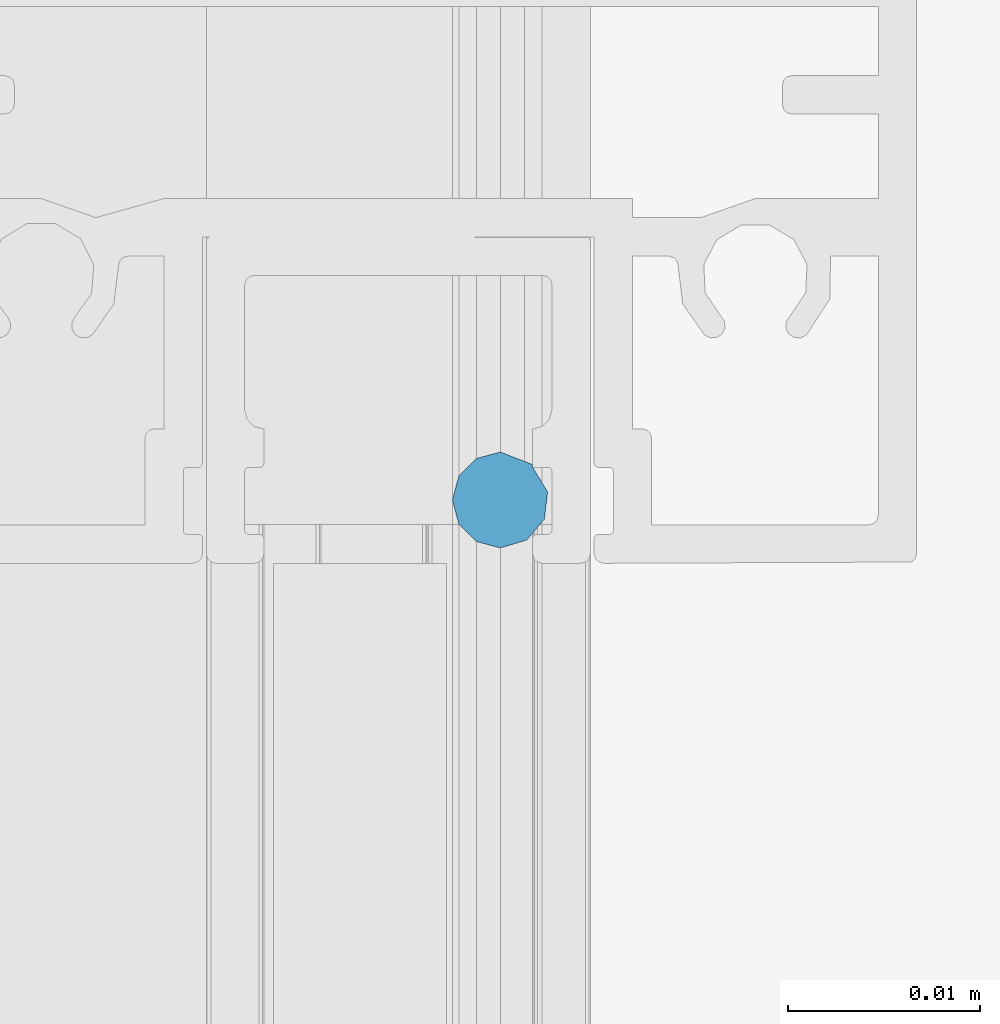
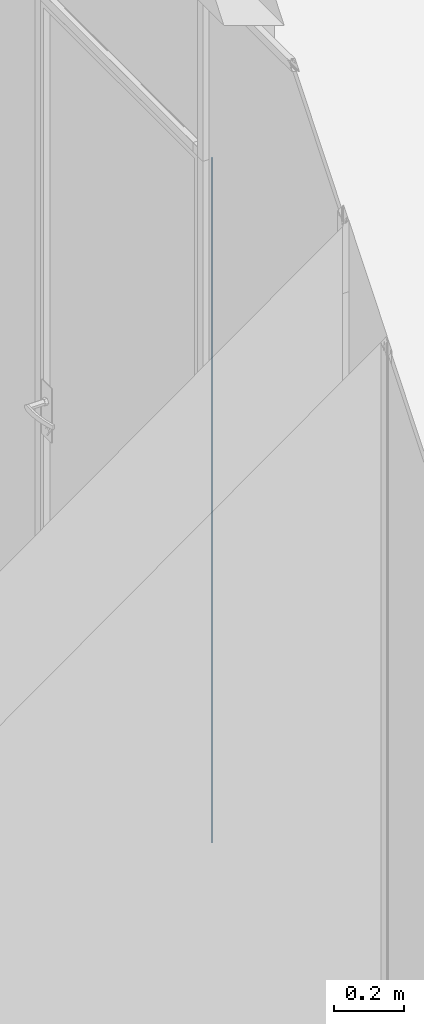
# One storey, part 59 of 387: 1 building element part, 2 elements without a shape of their own.
"""IFC2X3 building model written with IfcOpenShell, lengths in millimetres."""

import ifcopenshell
import ifcopenshell.guid

model = None  # the IFC model being written
_history = None  # IfcOwnerHistory: only IFC2X3 demands one
_inside = {}  # id of a spatial element -> (the spatial element, [elements in it])
_under = {}  # id of a project, library or spatial element -> (it, [spatial elements below it])
_declared = {}  # id of a project -> (the project, [libraries it declares])
_typed = {}  # id of a type object -> (the type object, [elements of that type])
_made_of = {}  # id of a material, layer set ... -> (it, [elements and type objects made of it])


def new_model(schema):
    """Start an empty IFC model of exactly this schema.

    Asked for "IFC4X3", IfcOpenShell would pick the latest addendum, in which some entities
    have other attributes; the version numbers below select the first issue.
    IFC2X3 requires an IfcOwnerHistory on every rooted entity: one is made here for all.
    """
    global model, _history
    if schema == "IFC4X3":
        model = ifcopenshell.file(schema_version=(4, 3, 0, 0))
    else:
        model = ifcopenshell.file(schema=schema)
    _inside.clear()
    _under.clear()
    _declared.clear()
    _typed.clear()
    _made_of.clear()
    _history = None
    if model.schema == "IFC2X3":
        org = make("IfcOrganization", Name="unknown")
        user = make(
            "IfcPersonAndOrganization",
            ThePerson=make("IfcPerson", FamilyName="unknown"),
            TheOrganization=org,
        )
        app = make(
            "IfcApplication",
            ApplicationDeveloper=org,
            Version="unknown",
            ApplicationFullName="unknown",
            ApplicationIdentifier="unknown",
        )
        _history = make(
            "IfcOwnerHistory",
            OwningUser=user,
            OwningApplication=app,
            ChangeAction="ADDED",
            CreationDate=0,
        )
    return model


def make(cls, **values):
    """One entity of the class cls with the attributes given. An attribute that is None is left unset."""
    return model.create_entity(
        cls, **{name: value for name, value in values.items() if value is not None}
    )


def entity(cls, *values):
    """Any entity or typed value of the class cls, its attributes in the order of the schema. None: left unset."""
    e = model.create_entity(cls)
    for i, value in enumerate(values):
        if value is not None:
            e[i] = value
    return e


def rooted(cls, **values):
    """An entity with a GlobalId (a new one), such as an element, a storey or a relation."""
    return make(cls, GlobalId=ifcopenshell.guid.new(), OwnerHistory=_history, **values)


def si_unit(unit_type, name, prefix=None):
    """IfcSIUnit, for example si_unit("LENGTHUNIT", "METRE", prefix="MILLI")."""
    return make("IfcSIUnit", UnitType=unit_type, Prefix=prefix, Name=name)


def converted_unit(unit_type, name, factor, base, dimensions=None, offset=None):
    """IfcConversionBasedUnit, such as the inch: factor (a typed value) times the base unit."""
    return make(
        "IfcConversionBasedUnit"
        if offset is None
        else "IfcConversionBasedUnitWithOffset",
        ConversionOffset=offset,
        Dimensions=None
        if dimensions is None
        else entity("IfcDimensionalExponents", *dimensions),
        UnitType=unit_type,
        Name=name,
        ConversionFactor=make(
            "IfcMeasureWithUnit", ValueComponent=factor, UnitComponent=base
        ),
    )


def derived_unit(unit_type, elements):
    """IfcDerivedUnit: a product of units, each with its exponent."""
    return make(
        "IfcDerivedUnit",
        Elements=[
            make("IfcDerivedUnitElement", Unit=unit, Exponent=power)
            for unit, power in elements
        ],
        UnitType=unit_type,
    )


def money_unit(currency):
    """IfcMonetaryUnit."""
    return make("IfcMonetaryUnit", Currency=currency)


def assignment(units):
    """IfcUnitAssignment: the units of a project."""
    return None if units is None else make("IfcUnitAssignment", Units=units)


def point(xyz):
    """IfcCartesianPoint."""
    return None if xyz is None else make("IfcCartesianPoint", Coordinates=xyz)


def direction(xyz):
    """IfcDirection."""
    return None if xyz is None else make("IfcDirection", DirectionRatios=xyz)


def frame(location, z_axis=None, x_axis=None):
    """IfcAxis2Placement3D, a coordinate frame: its origin and axes. An axis left out is left unset."""
    return make(
        "IfcAxis2Placement3D",
        Location=point(location),
        Axis=direction(z_axis),
        RefDirection=direction(x_axis),
    )


def origin_with_axes():
    """The frame at (0, 0, 0) with the z axis (0, 0, 1) and the x axis (1, 0, 0) written out."""
    return frame((0.0, 0.0, 0.0), z_axis=(0.0, 0.0, 1.0), x_axis=(1.0, 0.0, 0.0))


def place(relative_to, where):
    """IfcLocalPlacement: puts the frame where relative to a parent placement (None: the world)."""
    return make(
        "IfcLocalPlacement", PlacementRelTo=relative_to, RelativePlacement=where
    )


def context(
    kind, dimensions, precision=None, world=None, true_north=None, identifier=None
):
    """IfcGeometricRepresentationContext, for example the 3D "Model" context."""
    return make(
        "IfcGeometricRepresentationContext",
        ContextIdentifier=identifier,
        ContextType=kind,
        CoordinateSpaceDimension=dimensions,
        Precision=precision,
        WorldCoordinateSystem=world,
        TrueNorth=true_north,
    )


def subcontext(parent, identifier, kind, view, scale=None):
    """IfcGeometricRepresentationSubContext, for example "Body" below "Model"."""
    return make(
        "IfcGeometricRepresentationSubContext",
        ContextIdentifier=identifier,
        ContextType=kind,
        ParentContext=parent,
        TargetScale=scale,
        TargetView=view,
    )


def project(units=None, contexts=None):
    """IfcProject with its units and contexts."""
    return rooted(
        "IfcProject",
        Name="project",
        RepresentationContexts=contexts,
        UnitsInContext=assignment(units),
    )


def spatial(cls, under=None, at=None, **own):
    """A site, building, storey or space (cls), placed at a placement, below another one or the project."""
    s = rooted(cls, ObjectPlacement=at, **own)
    if under is not None:
        _under.setdefault(under.id(), (under, []))[1].append(s)
    return s


def faces_of(points, faces, orient=None, outer=None):
    """IfcFace entities. A face is a list of loops; a loop is a list of indices into points, from 0.

    orient and outer hold one flag for each loop. By default every Orientation is true, the
    first loop of a face is its IfcFaceOuterBound and the others are IfcFaceBound.
    """
    made = []
    for i, loops in enumerate(faces):
        bounds = []
        for j, loop in enumerate(loops):
            is_outer = j == 0 if outer is None else outer[i][j]
            bounds.append(
                make(
                    "IfcFaceOuterBound" if is_outer else "IfcFaceBound",
                    Bound=make("IfcPolyLoop", Polygon=[points[k] for k in loop]),
                    Orientation=True if orient is None else orient[i][j],
                )
            )
        made.append(make("IfcFace", Bounds=bounds))
    return made


def faceted_brep(points, faces, orient=None, outer=None, voids=None):
    """IfcFacetedBrep: a solid bounded by flat faces; with voids (closed shells), ...WithVoids."""
    shared = [point(p) for p in points]
    hull = make("IfcClosedShell", CfsFaces=faces_of(shared, faces, orient, outer))
    if voids is None:
        return make("IfcFacetedBrep", Outer=hull)
    return make(
        "IfcFacetedBrepWithVoids",
        Outer=hull,
        Voids=[
            make(cls, CfsFaces=faces_of(shared, fs, o, b)) for cls, fs, o, b in voids
        ],
    )


def shape(context_of_items, identifier, shape_type, items):
    """IfcShapeRepresentation: the items that make up one representation, for example the "Body"."""
    return make(
        "IfcShapeRepresentation",
        ContextOfItems=context_of_items,
        RepresentationIdentifier=identifier,
        RepresentationType=shape_type,
        Items=items,
    )


def source(mapping_origin, context_of_items, identifier, shape_type, items):
    """IfcRepresentationMap: a shape defined once, which mapped items show again and again."""
    return make(
        "IfcRepresentationMap",
        MappingOrigin=mapping_origin,
        MappedRepresentation=shape(context_of_items, identifier, shape_type, items),
    )


def transform(
    local_origin,
    x_axis=None,
    y_axis=None,
    z_axis=None,
    scale=None,
    scale2=None,
    scale3=None,
    uniform=True,
):
    """IfcCartesianTransformationOperator3D, or its non-uniform kind. x_axis, y_axis, z_axis: its Axis1, 2, 3."""
    if uniform:
        return make(
            "IfcCartesianTransformationOperator3D",
            Axis1=direction(x_axis),
            Axis2=direction(y_axis),
            LocalOrigin=point(local_origin),
            Scale=scale,
            Axis3=direction(z_axis),
        )
    return make(
        "IfcCartesianTransformationOperator3DnonUniform",
        Axis1=direction(x_axis),
        Axis2=direction(y_axis),
        LocalOrigin=point(local_origin),
        Scale=scale,
        Axis3=direction(z_axis),
        Scale2=scale2,
        Scale3=scale3,
    )


def mapped(mapping_source, mapping_target):
    """IfcMappedItem: shows the shape of a source again, moved by a transform."""
    return make(
        "IfcMappedItem", MappingSource=mapping_source, MappingTarget=mapping_target
    )


def material(Name=None, Category=None):
    """IfcMaterial."""
    return make("IfcMaterial", Name=Name, Category=Category)


def made_of(thing, what):
    """Note that an element or type object is made of a material, layer set ...; save() writes the relation."""
    if what is not None:
        _made_of.setdefault(what.id(), (what, []))[1].append(thing)
    return thing


def type_object(cls, material=None, **own):
    """A type object (cls), such as IfcWallType, which elements share."""
    return made_of(rooted(cls, **own), material)


def element(
    cls,
    number,
    at=None,
    inside=None,
    cuts=None,
    type_object=None,
    material=None,
    context=None,
    identifier="Body",
    shape_type=None,
    held_by="IfcProductDefinitionShape",
    body=None,
    shapes=None,
    **own,
):
    """One element of the class cls, such as IfcWall. Its Tag is "e" and its number.

    at: its placement. inside: the storey or other place that contains it. cuts: it is an
    opening in that element (IfcRelVoidsElement). A single representation is given by context,
    identifier, shape_type and body (its items); several are given by shapes. held_by: the class
    of the entity that holds the representations. save() writes the other relations.
    """
    e = rooted(cls, Tag="e%d" % number, ObjectPlacement=at, **own)
    if body is not None:
        shapes = [shape(context, identifier, shape_type, body)]
    if shapes is not None:
        e.Representation = make(held_by, Representations=shapes)
    if inside is not None:
        _inside.setdefault(inside.id(), (inside, []))[1].append(e)
    if cuts is not None:
        rooted(
            "IfcRelVoidsElement", RelatingBuildingElement=cuts, RelatedOpeningElement=e
        )
    if type_object is not None:
        _typed.setdefault(type_object.id(), (type_object, []))[1].append(e)
    return made_of(e, material)


def aggregate(whole, parts):
    """IfcRelAggregates: a whole, such as a stair, and the parts it consists of."""
    return rooted("IfcRelAggregates", RelatingObject=whole, RelatedObjects=parts)


def save(model, path):
    """Write the relations noted so far, then the file.

    IfcRelAggregates (storeys below a building ...), IfcRelContainedInSpatialStructure (elements
    in a storey), IfcRelDefinesByType, IfcRelAssociatesMaterial and IfcRelDeclares: one each for
    every whole, place, type object, material and project.
    """
    for whole, parts in _under.values():
        aggregate(whole, parts)
    for where, things in _inside.values():
        rooted(
            "IfcRelContainedInSpatialStructure",
            RelatedElements=things,
            RelatingStructure=where,
        )
    for kind, things in _typed.values():
        rooted("IfcRelDefinesByType", RelatedObjects=things, RelatingType=kind)
    for what, things in _made_of.values():
        rooted("IfcRelAssociatesMaterial", RelatedObjects=things, RelatingMaterial=what)
    for by, libraries in _declared.values():
        rooted("IfcRelDeclares", RelatingContext=by, RelatedDefinitions=libraries)
    model.write(path)


model = new_model("IFC2X3")

# Units and contexts
model_context = context("Model", 3, precision=0.01, world=origin_with_axes(), true_north=direction((0.0, 1.0)))
body_context = subcontext(model_context, "Body", "Model", "MODEL_VIEW")
ifc_project = project(units=[si_unit("LENGTHUNIT", "METRE", prefix="MILLI"), si_unit("AREAUNIT", "SQUARE_METRE"), si_unit("VOLUMEUNIT", "CUBIC_METRE"), converted_unit("PLANEANGLEUNIT", "DEGREE", entity("IfcPlaneAngleMeasure", 0.0174532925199), si_unit("PLANEANGLEUNIT", "RADIAN"), dimensions=[0, 0, 0, 0, 0, 0, 0]), si_unit("SOLIDANGLEUNIT", "STERADIAN"), money_unit("EUR"), converted_unit("TIMEUNIT", "Year", entity("IfcTimeMeasure", 31556926.0), si_unit("TIMEUNIT", "SECOND"), dimensions=[0, 0, 1, 0, 0, 0, 0]), si_unit("MASSUNIT", "GRAM", prefix="KILO"), si_unit("THERMODYNAMICTEMPERATUREUNIT", "DEGREE_CELSIUS"), si_unit("LUMINOUSINTENSITYUNIT", "LUMEN"), si_unit("ENERGYUNIT", "JOULE", prefix="MEGA"), derived_unit("THERMALCONDUCTANCEUNIT", [(si_unit("POWERUNIT", "WATT"), 1), (si_unit("LENGTHUNIT", "METRE"), -1), (si_unit("THERMODYNAMICTEMPERATUREUNIT", "KELVIN"), -1)]), derived_unit("SPECIFICHEATCAPACITYUNIT", [(si_unit("ENERGYUNIT", "JOULE"), 1), (si_unit("MASSUNIT", "GRAM", prefix="KILO"), -1), (si_unit("THERMODYNAMICTEMPERATUREUNIT", "KELVIN"), -1)]), derived_unit("MASSDENSITYUNIT", [(si_unit("MASSUNIT", "GRAM", prefix="KILO"), 1), (si_unit("VOLUMEUNIT", "CUBIC_METRE"), -1)])], contexts=[model_context])

# Site, building, storey
site_placement = place(None, origin_with_axes())
site = spatial("IfcSite", under=ifc_project, at=site_placement, Name="Puškini 31, Narva", CompositionType="ELEMENT")
building_placement = place(site_placement, origin_with_axes())
building = spatial("IfcBuilding", under=site, at=building_placement, Name="Narva Riigigümnaasium", CompositionType="ELEMENT")
storey_placement = place(building_placement, frame((0.0, 0.0, 2640.0), z_axis=(0.0, 0.0, 1.0), x_axis=(1.0, 0.0, 0.0)))
storey = spatial("IfcBuildingStorey", under=building, at=storey_placement, Name="2.korrus +2.64", CompositionType="ELEMENT", Elevation=2640.0)

# Curtain wall, member, building element part
curtain_wall_type = type_object("IfcCurtainWallType", Name="Curtain Wall Type", PredefinedType="NOTDEFINED")
curtain_wall_placement = place(storey_placement, frame((28390.0000002, 176724.161139, -5.42380846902e-05), z_axis=(0.0, 0.0, 1.0), x_axis=(1.0, 0.0, 0.0)))
curtain_wall = element("IfcCurtainWall", 1, at=curtain_wall_placement, inside=storey, type_object=curtain_wall_type, Name="G-SKLF-12")
member_type = type_object("IfcMemberType", Name="32 x 27", PredefinedType="MULLION")
member_placement = place(curtain_wall_placement, frame((4.75708361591e-09, -308.189107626, 0.0), z_axis=(0.0, 0.0, 1.0), x_axis=(0.0, 1.0, 0.0)))
member = element("IfcMember", 2, at=member_placement, type_object=member_type, Name="G-SKLF-12-raam", ObjectType="MULLION")
aggregate(curtain_wall, [member])
ifc_material = material(Name="Soojustus - Mineraal Kõva")
shared_shape = source(origin_with_axes(), body_context, "Body", "Brep", [
    faceted_brep([(27.0, 6.99999999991, 0.0), (27.0, 6.99999999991, 2400.00001337), (28.2816361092, 7.77906931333, 2400.00001337), (28.2816361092, 7.77906931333, 0.0), (26.8568724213, 7.00000000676, 0.0), (26.8568724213, 7.00000000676, 2400.00001337), (26.2036516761, 5.31494614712, 2400.00001337), (26.5385881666, 4.06494614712, 2400.00001337), (27.4536516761, 3.14988263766, 2400.00001337), (28.7036516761, 2.81494614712, 2400.00001337), (29.9536516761, 3.14988263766, 2400.00001337), (30.8687151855, 4.06494614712, 2400.00001337), (31.2036516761, 5.31494614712, 2400.00001337), (30.7946188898, 6.68529506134, 2400.00001337), (29.7013667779, 7.60722986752, 2400.00001337), (29.7013667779, 7.60722986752, 0.0), (30.7946188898, 6.68529506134, 0.0), (31.2036516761, 5.31494614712, 0.0), (30.8687151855, 4.06494614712, 0.0), (29.9536516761, 3.14988263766, 0.0), (28.7036516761, 2.81494614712, 0.0), (27.4536516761, 3.14988263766, 0.0), (26.5385881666, 4.06494614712, 0.0), (26.2036516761, 5.31494614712, 0.0)], [[[0, 1, 2, 3]], [[4, 5, 1, 0]], [[1, 5, 6, 7, 8, 9, 10, 11, 12, 13, 14, 2]], [[3, 2, 14, 15]], [[0, 3, 15, 16, 17, 18, 19, 20, 21, 22, 23, 4]], [[23, 6, 5, 4]], [[22, 7, 6, 23]], [[21, 8, 7, 22]], [[20, 9, 8, 21]], [[19, 10, 9, 20]], [[18, 11, 10, 19]], [[17, 12, 11, 18]], [[16, 13, 12, 17]], [[15, 14, 13, 16]]]),
])
building_element_part_placement = place(member_placement, origin_with_axes())
building_element_part = element("IfcBuildingElementPart", 3, at=building_element_part_placement, material=ifc_material, Name="Soojustus - Mineraal Kõva", context=body_context, shape_type="MappedRepresentation", body=[
    mapped(shared_shape, transform((0.0, 0.0, 0.0), x_axis=(-1.0, 0.0, 0.0), y_axis=(0.0, -1.0, 0.0), z_axis=(0.0, 0.0, 1.0))),
])
aggregate(member, [building_element_part])

save(model, "model.ifc")
